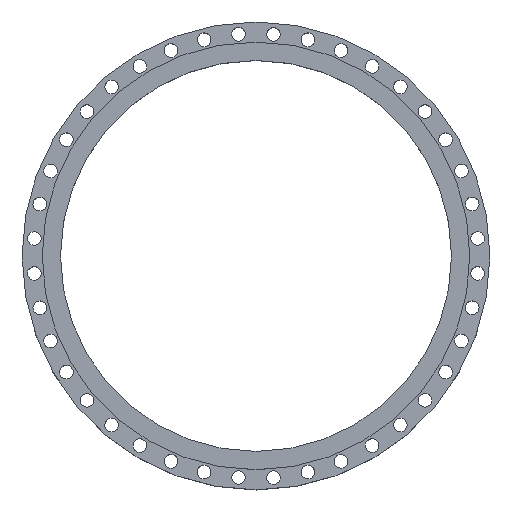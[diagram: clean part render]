
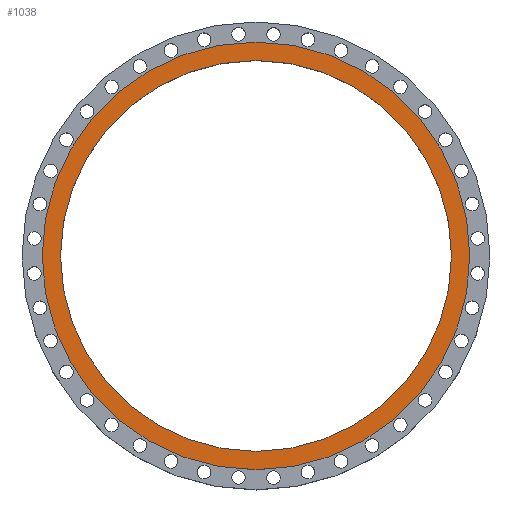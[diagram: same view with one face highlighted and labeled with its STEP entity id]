
A CAD part, top view. The second image highlights one B-rep face of the part: STEP entity #1038.
In plain terms, the highlighted planar face has unit normal (0, 0, 1).
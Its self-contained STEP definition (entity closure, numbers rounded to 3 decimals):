
#1038=ADVANCED_FACE('',(#2383,#2385),#2387,.T.);
#2383=FACE_BOUND('',#2384,.T.);
#2384=EDGE_LOOP('',(#2876));
#2385=FACE_BOUND('',#2386,.T.);
#2386=EDGE_LOOP('',(#2877));
#2387=PLANE('',#2388);
#2388=AXIS2_PLACEMENT_3D('',#2389,#2390,#2391);
#2389=CARTESIAN_POINT('',(0.,0.,175.));
#2390=DIRECTION('',(0.,0.,1.));
#2391=DIRECTION('',(0.,1.,0.));
#2876=ORIENTED_EDGE('',*,*,#3104,.F.);
#2877=ORIENTED_EDGE('',*,*,#3106,.T.);
#3104=EDGE_CURVE('',#3526,#3526,#3527,.T.);
#3106=EDGE_CURVE('',#3530,#3530,#3531,.T.);
#3526=VERTEX_POINT('',#5842);
#3527=CIRCLE('',#5843,875.);
#3530=VERTEX_POINT('',#5852);
#3531=CIRCLE('',#5853,800.);
#5842=CARTESIAN_POINT('',(0.,875.,175.));
#5843=AXIS2_PLACEMENT_3D('',#5844,#5845,#5846);
#5844=CARTESIAN_POINT('',(0.,0.,175.));
#5845=DIRECTION('',(0.,0.,-1.));
#5846=DIRECTION('',(0.,1.,0.));
#5852=CARTESIAN_POINT('',(0.,800.,175.));
#5853=AXIS2_PLACEMENT_3D('',#5854,#5855,#5856);
#5854=CARTESIAN_POINT('',(0.,0.,175.));
#5855=DIRECTION('',(0.,0.,-1.));
#5856=DIRECTION('',(0.,1.,0.));
